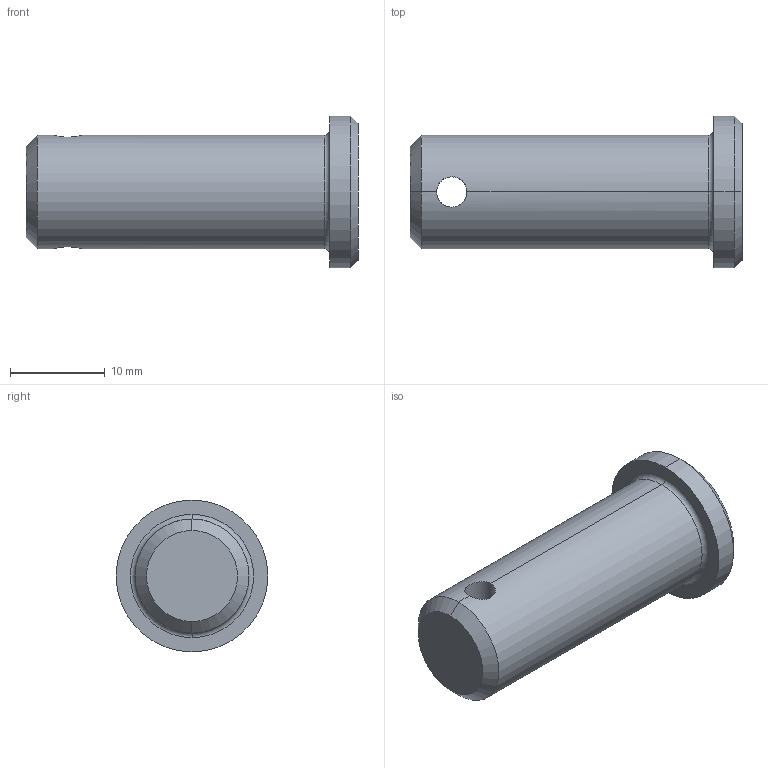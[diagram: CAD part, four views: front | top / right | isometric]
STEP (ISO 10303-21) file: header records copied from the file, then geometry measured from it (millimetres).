
FILE_DESCRIPTION (( 'STEP AP203' ), '1' );
FILE_NAME ('Wiberger-sms2360_12x32.step', '2012-10-09T08:57:28', ( 'Magnus' ), ( 'Wiberger' ), 'SwSTEP 2.0', 'SolidWorks 2011', '' );
FILE_SCHEMA (( 'CONFIG_CONTROL_DESIGN' ));
Length unit declared in the file: millimetre
Products named in the file (1): Wiberger-sms2360_12x32
Bounding box: 35 x 16 x 16 mm (x, y, z)
Volume: 4087.8 mm3; surface area: 1800.8 mm2
Topology: 1 solids, 1 shells, 15 faces, 32 edges, 18 vertices
Faces by surface type: cylinder 6, cone 4, plane 3, torus 2
Entity records: 579 total; most frequent: CARTESIAN_POINT 170, DIRECTION 76, ORIENTED_EDGE 64, EDGE_CURVE 32, AXIS2_PLACEMENT_3D 32, VERTEX_POINT 18, EDGE_LOOP 16, CIRCLE 16
